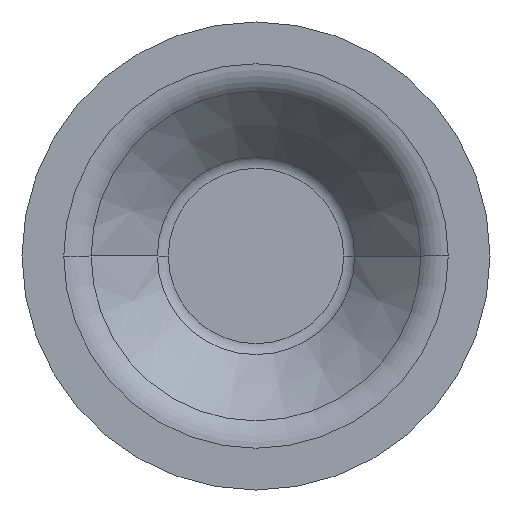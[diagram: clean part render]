
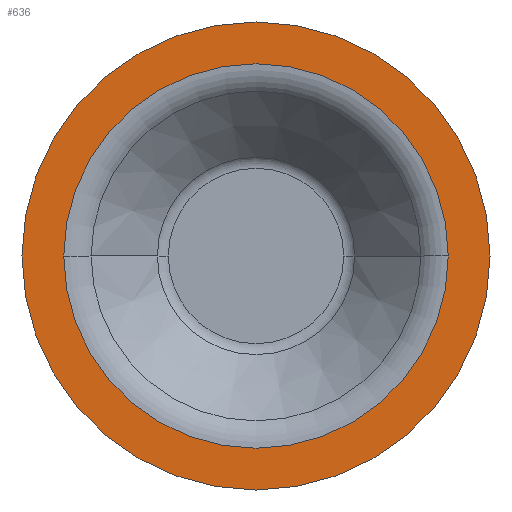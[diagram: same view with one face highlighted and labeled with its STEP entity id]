
A CAD part, front view. The second image highlights one B-rep face of the part: STEP entity #636.
In plain terms, the highlighted planar face has unit normal (0, -1, 0).
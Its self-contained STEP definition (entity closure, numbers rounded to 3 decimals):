
#18 = AXIS2_PLACEMENT_3D ( 'NONE', #1501, #1492, #1477 ) ;
#34 = EDGE_CURVE ( 'NONE', #187, #969, #1625, .T. ) ;
#48 = CIRCLE ( 'NONE', #955, 25.88 ) ;
#107 = FACE_OUTER_BOUND ( 'NONE', #824, .T. ) ;
#175 = CARTESIAN_POINT ( 'NONE',  ( 0., -15., 0. ) ) ;
#184 = AXIS2_PLACEMENT_3D ( 'NONE', #175, #1036, #930 ) ;
#187 = VERTEX_POINT ( 'NONE', #1070 ) ;
#244 = EDGE_CURVE ( 'NONE', #1000, #1216, #1467, .T. ) ;
#301 = CARTESIAN_POINT ( 'NONE',  ( 0., -15., 0. ) ) ;
#335 = CIRCLE ( 'NONE', #848, 31.5 ) ;
#421 = CARTESIAN_POINT ( 'NONE',  ( 0., -15., 0. ) ) ;
#561 = DIRECTION ( 'NONE',  ( 0., -1., 0. ) ) ;
#564 = EDGE_CURVE ( 'NONE', #969, #187, #335, .T. ) ;
#636 = ADVANCED_FACE ( 'NONE', ( #971, #107 ), #1094, .T. ) ;
#727 = ORIENTED_EDGE ( 'NONE', *, *, #244, .F. ) ;
#782 = ORIENTED_EDGE ( 'NONE', *, *, #34, .T. ) ;
#788 = CARTESIAN_POINT ( 'NONE',  ( 0., -15., 0. ) ) ;
#821 = DIRECTION ( 'NONE',  ( 1., 0., 0. ) ) ;
#824 = EDGE_LOOP ( 'NONE', ( #1225, #782 ) ) ;
#848 = AXIS2_PLACEMENT_3D ( 'NONE', #301, #561, #821 ) ;
#866 = CARTESIAN_POINT ( 'NONE',  ( 25.88, -15., 0. ) ) ;
#871 = DIRECTION ( 'NONE',  ( -1., 0., 0. ) ) ;
#930 = DIRECTION ( 'NONE',  ( -1., 0., 0. ) ) ;
#955 = AXIS2_PLACEMENT_3D ( 'NONE', #421, #1176, #871 ) ;
#969 = VERTEX_POINT ( 'NONE', #1412 ) ;
#971 = FACE_BOUND ( 'NONE', #1490, .T. ) ;
#1000 = VERTEX_POINT ( 'NONE', #1561 ) ;
#1023 = ORIENTED_EDGE ( 'NONE', *, *, #1430, .F. ) ;
#1026 = DIRECTION ( 'NONE',  ( 1., 0., 0. ) ) ;
#1036 = DIRECTION ( 'NONE',  ( 0., -1., 0. ) ) ;
#1070 = CARTESIAN_POINT ( 'NONE',  ( -31.5, -15., 0. ) ) ;
#1094 = PLANE ( 'NONE',  #18 ) ;
#1176 = DIRECTION ( 'NONE',  ( 0., -1., 0. ) ) ;
#1216 = VERTEX_POINT ( 'NONE', #866 ) ;
#1225 = ORIENTED_EDGE ( 'NONE', *, *, #564, .T. ) ;
#1289 = AXIS2_PLACEMENT_3D ( 'NONE', #788, #1298, #1026 ) ;
#1298 = DIRECTION ( 'NONE',  ( 0., -1., 0. ) ) ;
#1412 = CARTESIAN_POINT ( 'NONE',  ( 31.5, -15., 0. ) ) ;
#1430 = EDGE_CURVE ( 'NONE', #1216, #1000, #48, .T. ) ;
#1467 = CIRCLE ( 'NONE', #184, 25.88 ) ;
#1477 = DIRECTION ( 'NONE',  ( 1., 0., 0. ) ) ;
#1490 = EDGE_LOOP ( 'NONE', ( #727, #1023 ) ) ;
#1492 = DIRECTION ( 'NONE',  ( 0., -1., 0. ) ) ;
#1501 = CARTESIAN_POINT ( 'NONE',  ( 31.5, -15., 0. ) ) ;
#1561 = CARTESIAN_POINT ( 'NONE',  ( -25.88, -15., 0. ) ) ;
#1625 = CIRCLE ( 'NONE', #1289, 31.5 ) ;
